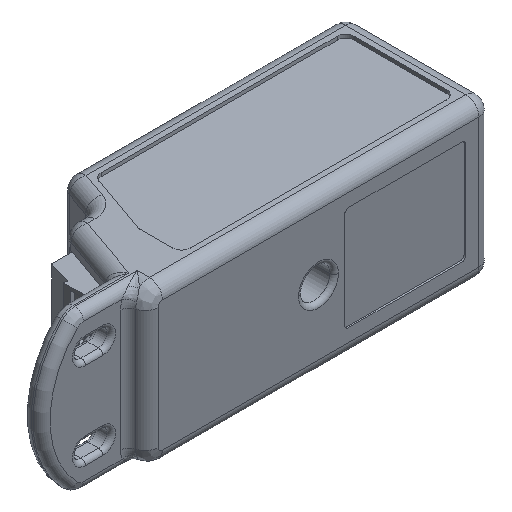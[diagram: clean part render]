
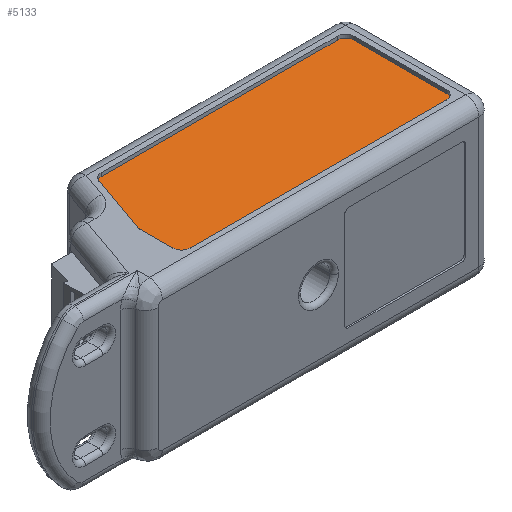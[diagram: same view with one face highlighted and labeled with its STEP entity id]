
A CAD part, isometric view. The second image highlights one B-rep face of the part: STEP entity #5133.
In plain terms, the highlighted planar face has unit normal (0, 0, 1).
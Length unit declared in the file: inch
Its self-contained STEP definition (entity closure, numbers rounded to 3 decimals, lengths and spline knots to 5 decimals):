
#1624=CARTESIAN_POINT('',(-0.51592,0.2665,0.43));
#1625=DIRECTION('',(0.,0.,1.));
#1626=DIRECTION('',(0.,1.,0.));
#1627=AXIS2_PLACEMENT_3D('',#1624,#1625,#1626);
#1629=DIRECTION('',(-1.,0.,0.));
#1630=VECTOR('',#1629,1.36092);
#1631=CARTESIAN_POINT('',(0.845,0.3165,0.43));
#1632=LINE('',#1631,#1630);
#1633=CARTESIAN_POINT('',(0.845,0.2665,0.43));
#1634=DIRECTION('',(0.,0.,1.));
#1635=DIRECTION('',(1.,0.,0.));
#1636=AXIS2_PLACEMENT_3D('',#1633,#1634,#1635);
#1638=DIRECTION('',(0.,1.,0.));
#1639=VECTOR('',#1638,0.533);
#1640=CARTESIAN_POINT('',(0.895,-0.2665,0.43));
#1641=LINE('',#1640,#1639);
#1642=CARTESIAN_POINT('',(0.845,-0.2665,0.43));
#1643=DIRECTION('',(0.,0.,1.));
#1644=DIRECTION('',(0.,-1.,0.));
#1645=AXIS2_PLACEMENT_3D('',#1642,#1643,#1644);
#1647=DIRECTION('',(1.,0.,0.));
#1648=VECTOR('',#1647,1.48097);
#1649=CARTESIAN_POINT('',(-0.63597,-0.3165,0.43));
#1650=LINE('',#1649,#1648);
#1651=CARTESIAN_POINT('',(-0.63597,-0.2665,0.43));
#1652=DIRECTION('',(0.,0.,1.));
#1653=DIRECTION('',(-1.,0.,0.));
#1654=AXIS2_PLACEMENT_3D('',#1651,#1652,#1653);
#1656=DIRECTION('',(0.,-1.,0.));
#1657=VECTOR('',#1656,0.19147);
#1658=CARTESIAN_POINT('',(-0.68597,-0.07503,0.43));
#1659=LINE('',#1658,#1657);
#1660=CARTESIAN_POINT('',(-0.63597,-0.07503,0.43));
#1661=DIRECTION('',(0.,0.,1.));
#1662=DIRECTION('',(-0.943,0.332,0.));
#1663=AXIS2_PLACEMENT_3D('',#1660,#1661,#1662);
#1665=DIRECTION('',(-0.332,-0.943,0.));
#1666=VECTOR('',#1665,0.36202);
#1667=CARTESIAN_POINT('',(-0.56309,0.28308,0.43));
#1668=LINE('',#1667,#1666);
#2395=CARTESIAN_POINT('',(-0.51592,0.3165,0.43));
#2396=CARTESIAN_POINT('',(-0.56309,0.28308,0.43));
#2397=VERTEX_POINT('',#2395);
#2398=VERTEX_POINT('',#2396);
#2403=CARTESIAN_POINT('',(-0.68314,-0.05845,0.43));
#2404=CARTESIAN_POINT('',(-0.68597,-0.07503,0.43));
#2405=VERTEX_POINT('',#2403);
#2406=VERTEX_POINT('',#2404);
#2411=CARTESIAN_POINT('',(-0.68597,-0.2665,0.43));
#2412=CARTESIAN_POINT('',(-0.63597,-0.3165,0.43));
#2413=VERTEX_POINT('',#2411);
#2414=VERTEX_POINT('',#2412);
#2419=CARTESIAN_POINT('',(0.845,-0.3165,0.43));
#2420=CARTESIAN_POINT('',(0.895,-0.2665,0.43));
#2421=VERTEX_POINT('',#2419);
#2422=VERTEX_POINT('',#2420);
#2427=CARTESIAN_POINT('',(0.895,0.2665,0.43));
#2428=CARTESIAN_POINT('',(0.845,0.3165,0.43));
#2429=VERTEX_POINT('',#2427);
#2430=VERTEX_POINT('',#2428);
#5108=CARTESIAN_POINT('',(0.,0.,0.43));
#5109=DIRECTION('',(0.,0.,1.));
#5110=DIRECTION('',(1.,0.,0.));
#5111=AXIS2_PLACEMENT_3D('',#5108,#5109,#5110);
#5112=PLANE('',#5111);
#5113=ORIENTED_EDGE('',*,*,#5099,.F.);
#5115=ORIENTED_EDGE('',*,*,#5114,.F.);
#5117=ORIENTED_EDGE('',*,*,#5116,.F.);
#5119=ORIENTED_EDGE('',*,*,#5118,.F.);
#5121=ORIENTED_EDGE('',*,*,#5120,.F.);
#5123=ORIENTED_EDGE('',*,*,#5122,.F.);
#5125=ORIENTED_EDGE('',*,*,#5124,.F.);
#5127=ORIENTED_EDGE('',*,*,#5126,.F.);
#5129=ORIENTED_EDGE('',*,*,#5128,.F.);
#5130=ORIENTED_EDGE('',*,*,#5086,.F.);
#5131=EDGE_LOOP('',(#5113,#5115,#5117,#5119,#5121,#5123,#5125,#5127,#5129,
#5130));
#5132=FACE_OUTER_BOUND('',#5131,.F.);
#5133=ADVANCED_FACE('',(#5132),#5112,.T.);
#1628=CIRCLE('',#1627,0.05);
#1637=CIRCLE('',#1636,0.05);
#1646=CIRCLE('',#1645,0.05);
#1655=CIRCLE('',#1654,0.05);
#1664=CIRCLE('',#1663,0.05);
#5086=EDGE_CURVE('',#2398,#2405,#1668,.T.);
#5099=EDGE_CURVE('',#2397,#2398,#1628,.T.);
#5114=EDGE_CURVE('',#2430,#2397,#1632,.T.);
#5116=EDGE_CURVE('',#2429,#2430,#1637,.T.);
#5118=EDGE_CURVE('',#2422,#2429,#1641,.T.);
#5120=EDGE_CURVE('',#2421,#2422,#1646,.T.);
#5122=EDGE_CURVE('',#2414,#2421,#1650,.T.);
#5124=EDGE_CURVE('',#2413,#2414,#1655,.T.);
#5126=EDGE_CURVE('',#2406,#2413,#1659,.T.);
#5128=EDGE_CURVE('',#2405,#2406,#1664,.T.);
